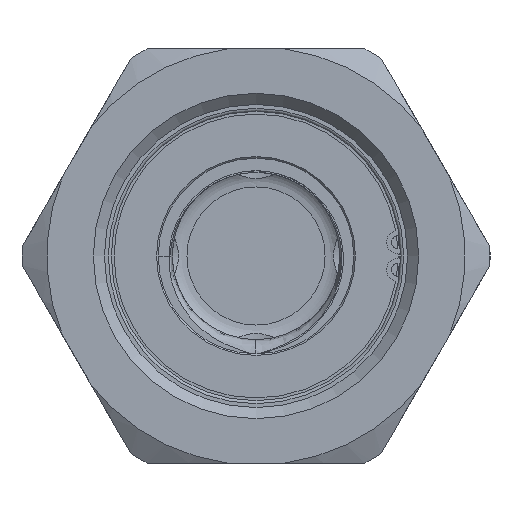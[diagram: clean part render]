
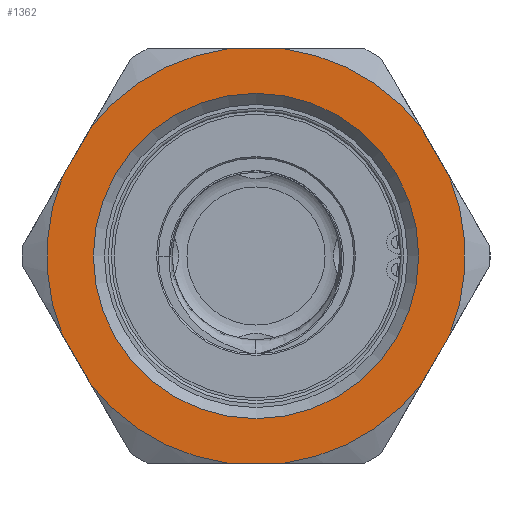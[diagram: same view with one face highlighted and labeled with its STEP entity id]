
A CAD part, left-side view. The second image highlights one B-rep face of the part: STEP entity #1362.
In plain terms, the highlighted planar face has unit normal (-1, 0, 0).
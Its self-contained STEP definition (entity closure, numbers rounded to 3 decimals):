
#72 = ORIENTED_EDGE ( 'NONE', *, *, #1154, .F. ) ;
#121 = DIRECTION ( 'NONE',  ( 0., 0., -1. ) ) ;
#205 = DIRECTION ( 'NONE',  ( 0., 0.5, -0.866 ) ) ;
#297 = CARTESIAN_POINT ( 'NONE',  ( 0., -21.541, -16.689 ) ) ;
#385 = DIRECTION ( 'NONE',  ( 0., -1., 0. ) ) ;
#403 = EDGE_CURVE ( 'NONE', #3078, #5100, #2106, .T. ) ;
#461 = ORIENTED_EDGE ( 'NONE', *, *, #403, .T. ) ;
#556 = CIRCLE ( 'NONE', #3937, 27.25 ) ;
#579 = CIRCLE ( 'NONE', #1259, 27.25 ) ;
#597 = AXIS2_PLACEMENT_3D ( 'NONE', #6691, #4043, #7299 ) ;
#609 = EDGE_CURVE ( 'NONE', #1888, #2201, #556, .T. ) ;
#696 = AXIS2_PLACEMENT_3D ( 'NONE', #1342, #6488, #2675 ) ;
#740 = VERTEX_POINT ( 'NONE', #297 ) ;
#790 = ORIENTED_EDGE ( 'NONE', *, *, #5428, .T. ) ;
#793 = CARTESIAN_POINT ( 'NONE',  ( 0., 21.2, 0. ) ) ;
#1154 = EDGE_CURVE ( 'NONE', #1833, #1833, #5191, .T. ) ;
#1184 = VERTEX_POINT ( 'NONE', #2059 ) ;
#1259 = AXIS2_PLACEMENT_3D ( 'NONE', #3263, #7861, #7153 ) ;
#1339 = DIRECTION ( 'NONE',  ( 0., 1., 0. ) ) ;
#1342 = CARTESIAN_POINT ( 'NONE',  ( 0., 0., 0. ) ) ;
#1362 = ADVANCED_FACE ( 'NONE', ( #6309, #3159 ), #7961, .F. ) ;
#1407 = LINE ( 'NONE', #3953, #4059 ) ;
#1498 = DIRECTION ( 'NONE',  ( 0., 0., 1. ) ) ;
#1511 = DIRECTION ( 'NONE',  ( -1., 0., 0. ) ) ;
#1513 = CIRCLE ( 'NONE', #3069, 27.25 ) ;
#1518 = CARTESIAN_POINT ( 'NONE',  ( 0., 21.2, -27. ) ) ;
#1710 = VERTEX_POINT ( 'NONE', #5963 ) ;
#1716 = DIRECTION ( 'NONE',  ( 0., 0., 1. ) ) ;
#1790 = ORIENTED_EDGE ( 'NONE', *, *, #4880, .T. ) ;
#1833 = VERTEX_POINT ( 'NONE', #7313 ) ;
#1888 = VERTEX_POINT ( 'NONE', #8062 ) ;
#2042 = DIRECTION ( 'NONE',  ( -1., 0., 0. ) ) ;
#2059 = CARTESIAN_POINT ( 'NONE',  ( 0., -25.224, -10.311 ) ) ;
#2106 = CIRCLE ( 'NONE', #3521, 27.25 ) ;
#2148 = EDGE_CURVE ( 'NONE', #2201, #3433, #4277, .T. ) ;
#2154 = CARTESIAN_POINT ( 'NONE',  ( 0., -18.083, 22.68 ) ) ;
#2201 = VERTEX_POINT ( 'NONE', #5761 ) ;
#2216 = CARTESIAN_POINT ( 'NONE',  ( 0., 28.683, 4.32 ) ) ;
#2231 = ORIENTED_EDGE ( 'NONE', *, *, #609, .T. ) ;
#2675 = DIRECTION ( 'NONE',  ( 0., 0., 1. ) ) ;
#2713 = AXIS2_PLACEMENT_3D ( 'NONE', #6015, #3398, #1498 ) ;
#2938 = DIRECTION ( 'NONE',  ( 0., 0., 1. ) ) ;
#3069 = AXIS2_PLACEMENT_3D ( 'NONE', #8141, #3656, #1716 ) ;
#3078 = VERTEX_POINT ( 'NONE', #7812 ) ;
#3110 = EDGE_LOOP ( 'NONE', ( #2231, #7376, #7515, #790, #6119, #6991, #3755, #5353, #1790, #6179, #461, #4836 ) ) ;
#3159 = FACE_OUTER_BOUND ( 'NONE', #3110, .T. ) ;
#3260 = VECTOR ( 'NONE', #205, 1000. ) ;
#3263 = CARTESIAN_POINT ( 'NONE',  ( 0., 0., 0. ) ) ;
#3398 = DIRECTION ( 'NONE',  ( -1., 0., 0. ) ) ;
#3433 = VERTEX_POINT ( 'NONE', #7377 ) ;
#3521 = AXIS2_PLACEMENT_3D ( 'NONE', #4675, #2042, #7219 ) ;
#3570 = VECTOR ( 'NONE', #8175, 1000. ) ;
#3656 = DIRECTION ( 'NONE',  ( -1., 0., 0. ) ) ;
#3739 = CARTESIAN_POINT ( 'NONE',  ( 0., -25.224, 10.311 ) ) ;
#3755 = ORIENTED_EDGE ( 'NONE', *, *, #4523, .T. ) ;
#3860 = LINE ( 'NONE', #1518, #6263 ) ;
#3869 = LINE ( 'NONE', #4197, #8038 ) ;
#3926 = CARTESIAN_POINT ( 'NONE',  ( 0., 3.683, -27. ) ) ;
#3937 = AXIS2_PLACEMENT_3D ( 'NONE', #4170, #1511, #2938 ) ;
#3953 = CARTESIAN_POINT ( 'NONE',  ( 0., 21.2, 27. ) ) ;
#4043 = DIRECTION ( 'NONE',  ( -1., 0., 0. ) ) ;
#4059 = VECTOR ( 'NONE', #1339, 1000. ) ;
#4105 = CARTESIAN_POINT ( 'NONE',  ( 0., -3.683, -27. ) ) ;
#4170 = CARTESIAN_POINT ( 'NONE',  ( 0., 0., 0. ) ) ;
#4197 = CARTESIAN_POINT ( 'NONE',  ( 0., -18.083, -22.68 ) ) ;
#4277 = LINE ( 'NONE', #4885, #3570 ) ;
#4523 = EDGE_CURVE ( 'NONE', #1184, #7473, #1513, .T. ) ;
#4675 = CARTESIAN_POINT ( 'NONE',  ( 0., 0., 0. ) ) ;
#4676 = CIRCLE ( 'NONE', #597, 27.25 ) ;
#4721 = DIRECTION ( 'NONE',  ( 1., 0., 0. ) ) ;
#4836 = ORIENTED_EDGE ( 'NONE', *, *, #6020, .T. ) ;
#4880 = EDGE_CURVE ( 'NONE', #1710, #5459, #7829, .T. ) ;
#4885 = CARTESIAN_POINT ( 'NONE',  ( 0., 28.683, -4.32 ) ) ;
#4894 = AXIS2_PLACEMENT_3D ( 'NONE', #793, #4721, #121 ) ;
#5100 = VERTEX_POINT ( 'NONE', #5966 ) ;
#5191 = CIRCLE ( 'NONE', #2713, 21.2 ) ;
#5353 = ORIENTED_EDGE ( 'NONE', *, *, #5853, .T. ) ;
#5428 = EDGE_CURVE ( 'NONE', #8216, #5961, #3860, .T. ) ;
#5459 = VERTEX_POINT ( 'NONE', #6177 ) ;
#5761 = CARTESIAN_POINT ( 'NONE',  ( 0., 25.224, -10.311 ) ) ;
#5853 = EDGE_CURVE ( 'NONE', #7473, #1710, #6226, .T. ) ;
#5908 = EDGE_CURVE ( 'NONE', #3433, #8216, #4676, .T. ) ;
#5961 = VERTEX_POINT ( 'NONE', #4105 ) ;
#5963 = CARTESIAN_POINT ( 'NONE',  ( 0., -21.541, 16.689 ) ) ;
#5966 = CARTESIAN_POINT ( 'NONE',  ( 0., 21.541, 16.689 ) ) ;
#5967 = DIRECTION ( 'NONE',  ( 0., 0.5, 0.866 ) ) ;
#6015 = CARTESIAN_POINT ( 'NONE',  ( 0., 0., 0. ) ) ;
#6020 = EDGE_CURVE ( 'NONE', #5100, #1888, #7226, .T. ) ;
#6069 = EDGE_CURVE ( 'NONE', #740, #1184, #3869, .T. ) ;
#6119 = ORIENTED_EDGE ( 'NONE', *, *, #7655, .T. ) ;
#6177 = CARTESIAN_POINT ( 'NONE',  ( 0., -3.683, 27. ) ) ;
#6179 = ORIENTED_EDGE ( 'NONE', *, *, #8087, .T. ) ;
#6226 = LINE ( 'NONE', #2154, #7727 ) ;
#6263 = VECTOR ( 'NONE', #385, 1000. ) ;
#6309 = FACE_BOUND ( 'NONE', #7984, .T. ) ;
#6488 = DIRECTION ( 'NONE',  ( -1., 0., 0. ) ) ;
#6691 = CARTESIAN_POINT ( 'NONE',  ( 0., 0., 0. ) ) ;
#6991 = ORIENTED_EDGE ( 'NONE', *, *, #6069, .T. ) ;
#7153 = DIRECTION ( 'NONE',  ( 0., 0., 1. ) ) ;
#7219 = DIRECTION ( 'NONE',  ( 0., 0., 1. ) ) ;
#7226 = LINE ( 'NONE', #2216, #3260 ) ;
#7299 = DIRECTION ( 'NONE',  ( 0., 0., 1. ) ) ;
#7313 = CARTESIAN_POINT ( 'NONE',  ( 0., 0., 21.2 ) ) ;
#7376 = ORIENTED_EDGE ( 'NONE', *, *, #2148, .T. ) ;
#7377 = CARTESIAN_POINT ( 'NONE',  ( 0., 21.541, -16.689 ) ) ;
#7473 = VERTEX_POINT ( 'NONE', #3739 ) ;
#7515 = ORIENTED_EDGE ( 'NONE', *, *, #5908, .T. ) ;
#7655 = EDGE_CURVE ( 'NONE', #5961, #740, #579, .T. ) ;
#7727 = VECTOR ( 'NONE', #5967, 1000. ) ;
#7812 = CARTESIAN_POINT ( 'NONE',  ( 0., 3.683, 27. ) ) ;
#7829 = CIRCLE ( 'NONE', #696, 27.25 ) ;
#7861 = DIRECTION ( 'NONE',  ( -1., 0., 0. ) ) ;
#7961 = PLANE ( 'NONE',  #4894 ) ;
#7984 = EDGE_LOOP ( 'NONE', ( #72 ) ) ;
#8031 = DIRECTION ( 'NONE',  ( 0., -0.5, 0.866 ) ) ;
#8038 = VECTOR ( 'NONE', #8031, 1000. ) ;
#8062 = CARTESIAN_POINT ( 'NONE',  ( 0., 25.224, 10.311 ) ) ;
#8087 = EDGE_CURVE ( 'NONE', #5459, #3078, #1407, .T. ) ;
#8141 = CARTESIAN_POINT ( 'NONE',  ( 0., 0., 0. ) ) ;
#8175 = DIRECTION ( 'NONE',  ( 0., -0.5, -0.866 ) ) ;
#8216 = VERTEX_POINT ( 'NONE', #3926 ) ;
